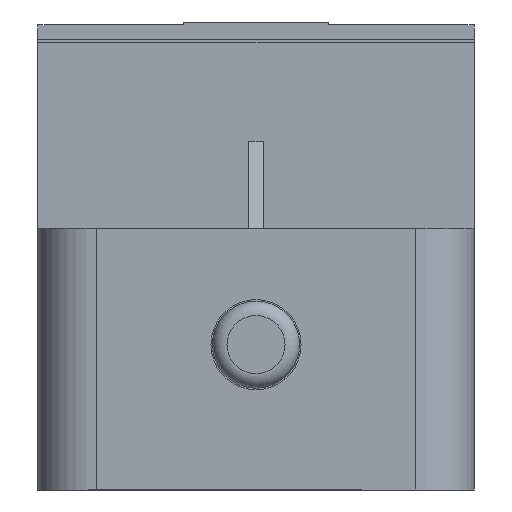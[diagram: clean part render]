
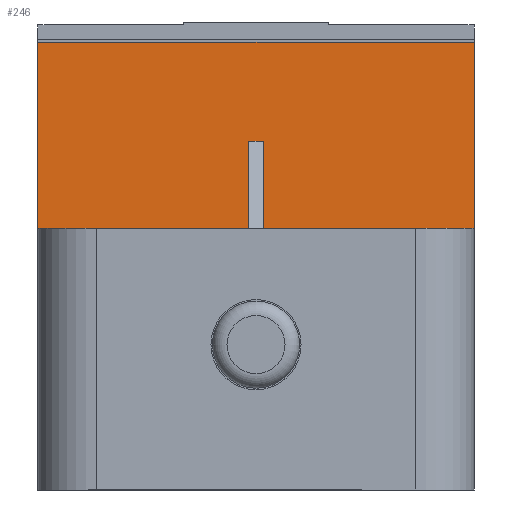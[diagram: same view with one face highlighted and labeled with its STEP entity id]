
A CAD part, left-side view. The second image highlights one B-rep face of the part: STEP entity #246.
In plain terms, the highlighted planar face has unit normal (-1, 0, 0).
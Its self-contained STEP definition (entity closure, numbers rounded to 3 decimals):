
#246=ADVANCED_FACE('',(#5343),#5345,.T.);
#5343=FACE_BOUND('',#5344,.T.);
#5344=EDGE_LOOP('',(#10063,#10064,#10065,#10066,#10067,#10068,#10069,#10070));
#5345=PLANE('',#5346);
#5346=AXIS2_PLACEMENT_3D('',#5347,#5348,#5349);
#5347=CARTESIAN_POINT('',(10.5,30.,22.));
#5348=DIRECTION('',(-1.,0.,0.));
#5349=DIRECTION('',(0.,0.,-1.));
#10063=ORIENTED_EDGE('',*,*,#13317,.F.);
#10064=ORIENTED_EDGE('',*,*,#13318,.T.);
#10065=ORIENTED_EDGE('',*,*,#13283,.T.);
#10066=ORIENTED_EDGE('',*,*,#13316,.T.);
#10067=ORIENTED_EDGE('',*,*,#13314,.F.);
#10068=ORIENTED_EDGE('',*,*,#13319,.F.);
#10069=ORIENTED_EDGE('',*,*,#13288,.T.);
#10070=ORIENTED_EDGE('',*,*,#13320,.F.);
#13283=EDGE_CURVE('',#14787,#14785,#14788,.T.);
#13288=EDGE_CURVE('',#14796,#14794,#14797,.T.);
#13314=EDGE_CURVE('',#14842,#14844,#14845,.T.);
#13316=EDGE_CURVE('',#14785,#14844,#14847,.T.);
#13317=EDGE_CURVE('',#14848,#14849,#14850,.T.);
#13318=EDGE_CURVE('',#14848,#14787,#14851,.T.);
#13319=EDGE_CURVE('',#14796,#14842,#14852,.T.);
#13320=EDGE_CURVE('',#14849,#14794,#14853,.T.);
#14785=VERTEX_POINT('',#17307);
#14787=VERTEX_POINT('',#17311);
#14788=LINE('',#17312,#17313);
#14794=VERTEX_POINT('',#17328);
#14796=VERTEX_POINT('',#17332);
#14797=LINE('',#17333,#17334);
#14842=VERTEX_POINT('',#17438);
#14844=VERTEX_POINT('',#17442);
#14845=LINE('',#17443,#17444);
#14847=LINE('',#17449,#17450);
#14848=VERTEX_POINT('',#17452);
#14849=VERTEX_POINT('',#17453);
#14850=LINE('',#17454,#17455);
#14851=LINE('',#17457,#17458);
#14852=LINE('',#17460,#17461);
#14853=LINE('',#17463,#17464);
#17307=CARTESIAN_POINT('',(10.5,15.5,8.));
#17311=CARTESIAN_POINT('',(10.5,30.,8.));
#17312=CARTESIAN_POINT('',(10.5,30.,8.));
#17313=VECTOR('',#17314,1.);
#17314=DIRECTION('',(0.,-1.,0.));
#17328=CARTESIAN_POINT('',(10.5,0.,8.));
#17332=CARTESIAN_POINT('',(10.5,14.5,8.));
#17333=CARTESIAN_POINT('',(10.5,14.5,8.));
#17334=VECTOR('',#17335,1.);
#17335=DIRECTION('',(0.,-1.,0.));
#17438=CARTESIAN_POINT('',(10.5,14.5,14.));
#17442=CARTESIAN_POINT('',(10.5,15.5,14.));
#17443=CARTESIAN_POINT('',(10.5,14.5,14.));
#17444=VECTOR('',#17445,1.);
#17445=DIRECTION('',(0.,1.,0.));
#17449=CARTESIAN_POINT('',(10.5,15.5,8.));
#17450=VECTOR('',#17451,1.);
#17451=DIRECTION('',(0.,0.,1.));
#17452=CARTESIAN_POINT('',(10.5,30.,20.8));
#17453=CARTESIAN_POINT('',(10.5,0.,20.8));
#17454=CARTESIAN_POINT('',(10.5,30.,20.8));
#17455=VECTOR('',#17456,1.);
#17456=DIRECTION('',(0.,-1.,0.));
#17457=CARTESIAN_POINT('',(10.5,30.,20.8));
#17458=VECTOR('',#17459,1.);
#17459=DIRECTION('',(0.,0.,-1.));
#17460=CARTESIAN_POINT('',(10.5,14.5,8.));
#17461=VECTOR('',#17462,1.);
#17462=DIRECTION('',(0.,0.,1.));
#17463=CARTESIAN_POINT('',(10.5,0.,20.8));
#17464=VECTOR('',#17465,1.);
#17465=DIRECTION('',(0.,0.,-1.));
